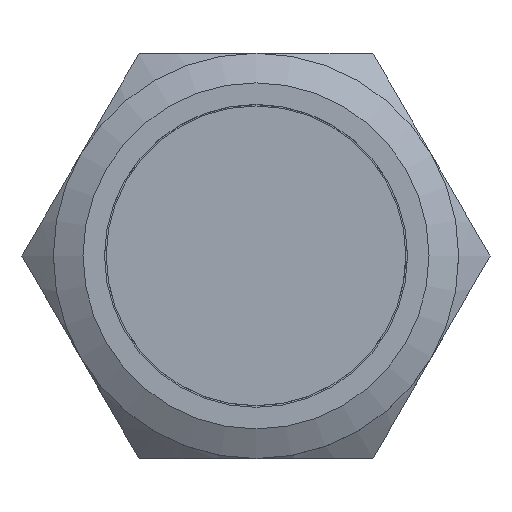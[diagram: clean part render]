
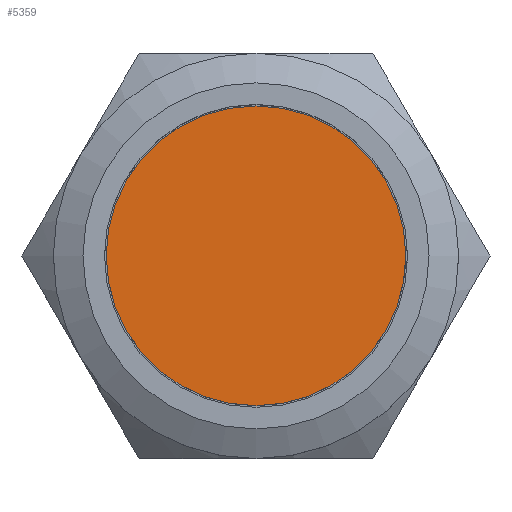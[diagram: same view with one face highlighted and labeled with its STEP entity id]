
A CAD part, top view. The second image highlights one B-rep face of the part: STEP entity #5359.
In plain terms, the highlighted planar face has unit normal (0, 0, 1).
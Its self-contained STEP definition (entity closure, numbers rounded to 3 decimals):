
#889=CIRCLE('',#21139,6.95);
#4747=PLANE('',#21145);
#5359=ADVANCED_FACE('',(#6275),#4747,.T.);
#6275=FACE_OUTER_BOUND('',#7101,.T.);
#7101=EDGE_LOOP('',(#11878));
#11878=ORIENTED_EDGE('',*,*,#18419,.F.);
#16756=VERTEX_POINT('',#27106);
#18419=EDGE_CURVE('',#16756,#16756,#889,.T.);
#21139=AXIS2_PLACEMENT_3D('',#27105,#22565,#22566);
#21145=AXIS2_PLACEMENT_3D('',#27119,#22579,#22580);
#22565=DIRECTION('',(0.,0.,-1.));
#22566=DIRECTION('',(1.,0.,0.));
#22579=DIRECTION('',(0.,0.,1.));
#22580=DIRECTION('',(0.,-1.,0.));
#27105=CARTESIAN_POINT('',(-12.901,9.658,17.15));
#27106=CARTESIAN_POINT('',(-5.951,9.658,17.15));
#27119=CARTESIAN_POINT('',(-5.951,9.658,17.15));
